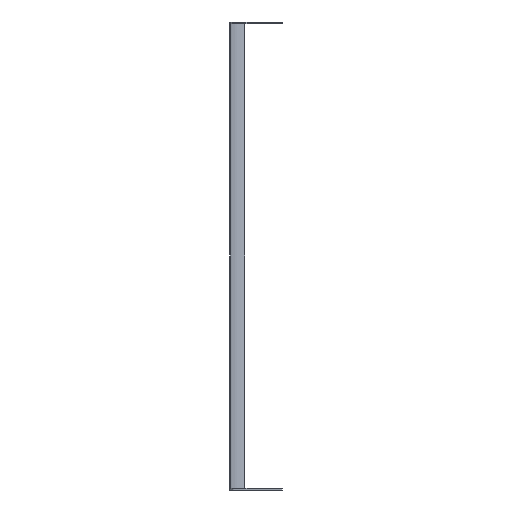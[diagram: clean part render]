
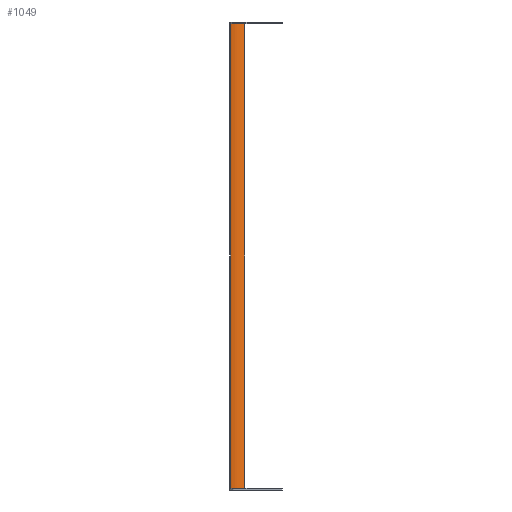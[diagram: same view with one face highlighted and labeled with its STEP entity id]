
A CAD part, left-side view. The second image highlights one B-rep face of the part: STEP entity #1049.
In plain terms, the highlighted cylindrical face has radius 40.64 mm (diameter 81.28 mm), a partial arc.
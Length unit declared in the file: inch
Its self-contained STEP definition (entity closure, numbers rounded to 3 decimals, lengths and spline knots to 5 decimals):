
#711=CARTESIAN_POINT('',(-1.63,-1.52,-16.118));
#712=DIRECTION('',(0.,0.,1.));
#713=DIRECTION('',(0.946,0.325,0.));
#714=AXIS2_PLACEMENT_3D('',#711,#712,#713);
#762=DIRECTION('',(0.,0.,1.));
#763=VECTOR('',#762,32.236);
#764=CARTESIAN_POINT('',(-0.98126,-0.05742,-16.118));
#765=LINE('',#764,#763);
#781=CARTESIAN_POINT('',(-1.63,-1.52,16.118));
#782=DIRECTION('',(0.,0.,-1.));
#783=DIRECTION('',(0.405,0.914,0.));
#784=AXIS2_PLACEMENT_3D('',#781,#782,#783);
#827=DIRECTION('',(0.,0.,1.));
#828=VECTOR('',#827,32.236);
#829=CARTESIAN_POINT('',(-0.11675,-1.00032,-16.118));
#830=LINE('',#829,#828);
#859=CARTESIAN_POINT('',(-0.11675,-1.00032,16.118));
#861=VERTEX_POINT('',#859);
#871=CARTESIAN_POINT('',(-0.98126,-0.05742,-16.118));
#872=CARTESIAN_POINT('',(-0.98126,-0.05742,16.118));
#873=VERTEX_POINT('',#871);
#874=VERTEX_POINT('',#872);
#885=CARTESIAN_POINT('',(-0.11675,-1.00032,-16.118));
#886=VERTEX_POINT('',#885);
#1038=CARTESIAN_POINT('',(-1.63,-1.52,16.118));
#1039=DIRECTION('',(0.,0.,-1.));
#1040=DIRECTION('',(-1.,0.,0.));
#1041=AXIS2_PLACEMENT_3D('',#1038,#1039,#1040);
#1042=CYLINDRICAL_SURFACE('',#1041,1.6);
#1043=ORIENTED_EDGE('',*,*,#916,.T.);
#1044=ORIENTED_EDGE('',*,*,#962,.T.);
#1045=ORIENTED_EDGE('',*,*,#982,.T.);
#1046=ORIENTED_EDGE('',*,*,#898,.F.);
#1047=EDGE_LOOP('',(#1043,#1044,#1045,#1046));
#1048=FACE_OUTER_BOUND('',#1047,.F.);
#715=CIRCLE('',#714,1.6);
#785=CIRCLE('',#784,1.6);
#898=EDGE_CURVE('',#886,#861,#830,.T.);
#916=EDGE_CURVE('',#886,#873,#715,.T.);
#962=EDGE_CURVE('',#873,#874,#765,.T.);
#982=EDGE_CURVE('',#874,#861,#785,.T.);
#1049=ADVANCED_FACE('',(#1048),#1042,.F.);
